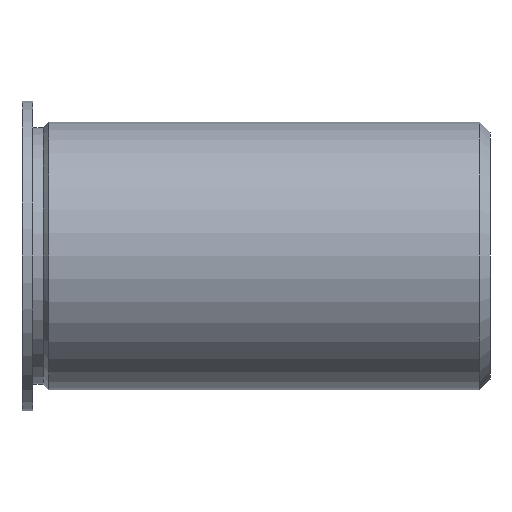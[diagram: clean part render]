
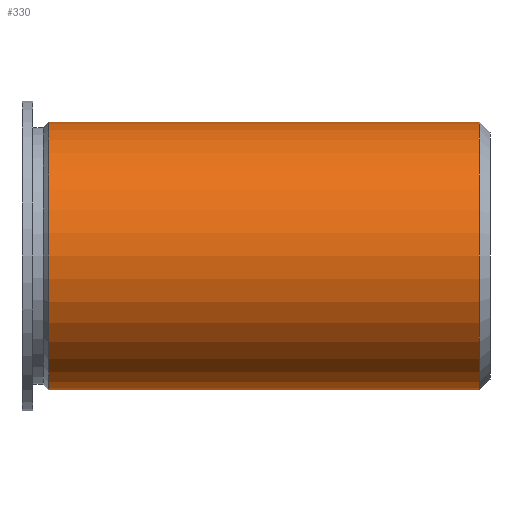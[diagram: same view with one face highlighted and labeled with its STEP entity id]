
A CAD part, front view. The second image highlights one B-rep face of the part: STEP entity #330.
In plain terms, the highlighted cylindrical face has radius 3.181 mm (diameter 6.363 mm), a partial arc.
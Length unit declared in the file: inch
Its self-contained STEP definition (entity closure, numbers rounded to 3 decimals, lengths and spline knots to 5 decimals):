
#4 = CARTESIAN_POINT ( 'NONE',  ( -1.78524, 3.75748, -0.12525 ) ) ;
#12 = CYLINDRICAL_SURFACE ( 'NONE', #296, 0.12525 ) ;
#23 = AXIS2_PLACEMENT_3D ( 'NONE', #554, #550, #513 ) ;
#44 = FACE_OUTER_BOUND ( 'NONE', #310, .T. ) ;
#55 = AXIS2_PLACEMENT_3D ( 'NONE', #193, #179, #448 ) ;
#59 = DIRECTION ( 'NONE',  ( 0., 0., 1. ) ) ;
#71 = CARTESIAN_POINT ( 'NONE',  ( -2.21324, 3.75748, -0.12525 ) ) ;
#91 = LINE ( 'NONE', #71, #108 ) ;
#94 = LINE ( 'NONE', #324, #568 ) ;
#108 = VECTOR ( 'NONE', #109, 39.37008 ) ;
#109 = DIRECTION ( 'NONE',  ( -1., 0., 0. ) ) ;
#124 = CARTESIAN_POINT ( 'NONE',  ( -2.21324, 3.75748, 0. ) ) ;
#160 = CARTESIAN_POINT ( 'NONE',  ( -1.78524, 3.75748, 0.12525 ) ) ;
#179 = DIRECTION ( 'NONE',  ( -1., 0., 0. ) ) ;
#191 = CARTESIAN_POINT ( 'NONE',  ( -2.18824, 3.75748, 0.12525 ) ) ;
#193 = CARTESIAN_POINT ( 'NONE',  ( -1.78524, 3.75748, 0. ) ) ;
#200 = CARTESIAN_POINT ( 'NONE',  ( -2.18824, 3.75748, -0.12525 ) ) ;
#209 = VERTEX_POINT ( 'NONE', #191 ) ;
#220 = CIRCLE ( 'NONE', #23, 0.12525 ) ;
#231 = CIRCLE ( 'NONE', #55, 0.12525 ) ;
#247 = DIRECTION ( 'NONE',  ( -1., 0., 0. ) ) ;
#262 = VERTEX_POINT ( 'NONE', #4 ) ;
#280 = VERTEX_POINT ( 'NONE', #200 ) ;
#296 = AXIS2_PLACEMENT_3D ( 'NONE', #124, #247, #59 ) ;
#310 = EDGE_LOOP ( 'NONE', ( #562, #535, #455, #525 ) ) ;
#324 = CARTESIAN_POINT ( 'NONE',  ( -2.21324, 3.75748, 0.12525 ) ) ;
#330 = ADVANCED_FACE ( 'NONE', ( #44 ), #12, .T. ) ;
#383 = EDGE_CURVE ( 'NONE', #262, #280, #91, .T. ) ;
#392 = EDGE_CURVE ( 'NONE', #575, #209, #94, .T. ) ;
#399 = DIRECTION ( 'NONE',  ( -1., 0., 0. ) ) ;
#448 = DIRECTION ( 'NONE',  ( 0., 0., 1. ) ) ;
#455 = ORIENTED_EDGE ( 'NONE', *, *, #392, .T. ) ;
#513 = DIRECTION ( 'NONE',  ( 0., 0., 1. ) ) ;
#525 = ORIENTED_EDGE ( 'NONE', *, *, #583, .F. ) ;
#535 = ORIENTED_EDGE ( 'NONE', *, *, #573, .T. ) ;
#550 = DIRECTION ( 'NONE',  ( -1., 0., 0. ) ) ;
#554 = CARTESIAN_POINT ( 'NONE',  ( -2.18824, 3.75748, 0. ) ) ;
#562 = ORIENTED_EDGE ( 'NONE', *, *, #383, .F. ) ;
#568 = VECTOR ( 'NONE', #399, 39.37008 ) ;
#573 = EDGE_CURVE ( 'NONE', #262, #575, #231, .T. ) ;
#575 = VERTEX_POINT ( 'NONE', #160 ) ;
#583 = EDGE_CURVE ( 'NONE', #280, #209, #220, .T. ) ;
